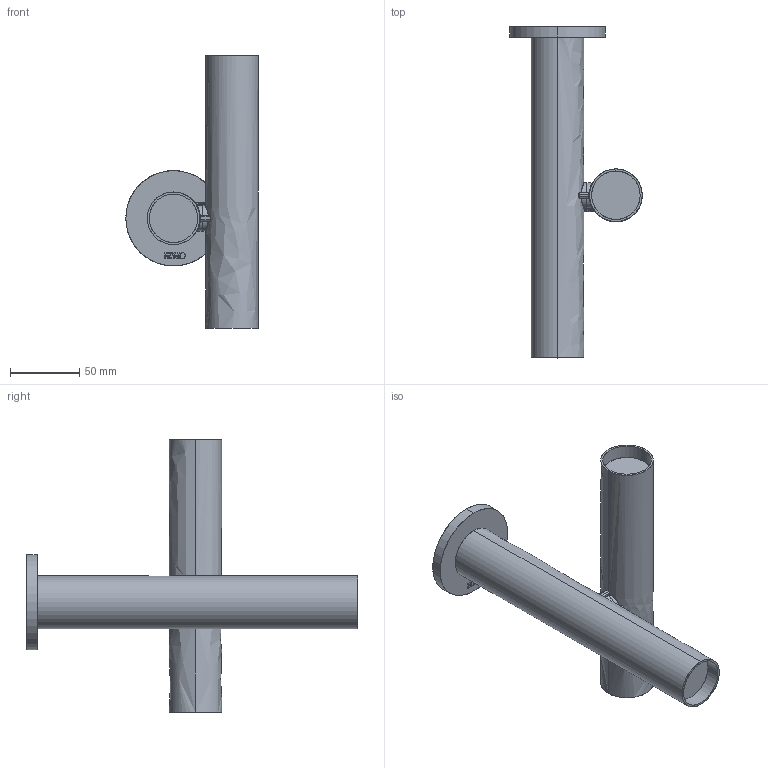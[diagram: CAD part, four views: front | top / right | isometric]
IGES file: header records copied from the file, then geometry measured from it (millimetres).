
Start section: SolidWorks IGES file using analytic representation for surfaces
Global section: file name: N:\- Ingeneria\DISEGNI\PRODOTTI\TUBES\TUBES\CEILING\defeature.IGS; native system: SolidWorks 2016; preprocessor: SolidWorks 2016; author: MargheritaGiacomozzi; date: 211014.155128; units: millimetre
Bounding box: 95.7 x 240 x 197 mm (x, y, z)
Surface area: 72487.8 mm2 (no closed solid volume)
Topology: 0 solids, 0 shells, 371 faces, 4383 edges, 4365 vertices
Faces by surface type: bspline 241, revolution 130
